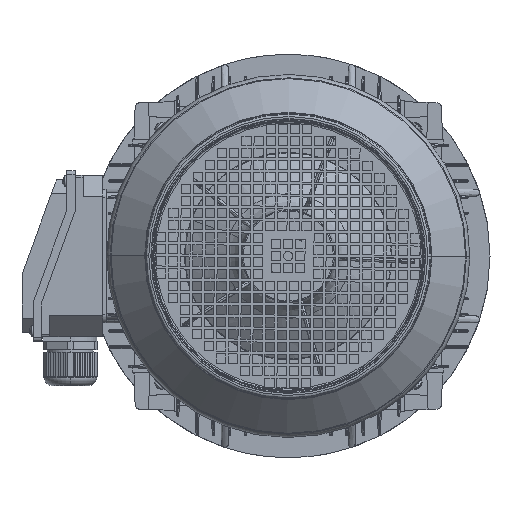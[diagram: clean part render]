
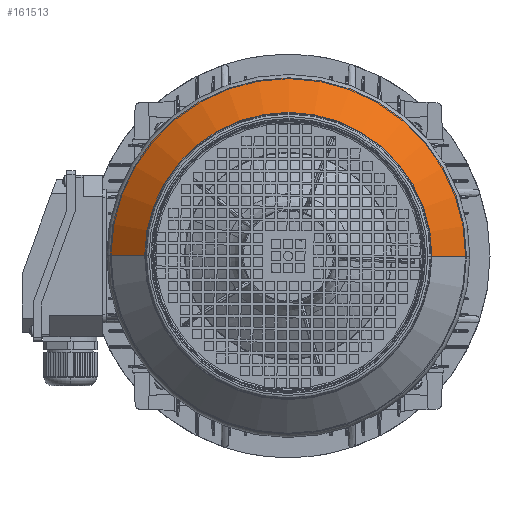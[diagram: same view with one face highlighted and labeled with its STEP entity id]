
A CAD part, left-side view. The second image highlights one B-rep face of the part: STEP entity #161513.
In plain terms, the highlighted conical face has half-angle 45 degrees and reference radius 124.586 mm.
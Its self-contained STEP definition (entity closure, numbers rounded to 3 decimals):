
#554 = CARTESIAN_POINT ( 'NONE',  ( -286.782, -126.084, -0.655 ) ) ;
#3514 = CONICAL_SURFACE ( 'NONE', #90563, 124.586, 0.785 ) ;
#4037 = EDGE_CURVE ( 'NONE', #64445, #101035, #183783, .T. ) ;
#23462 = VERTEX_POINT ( 'NONE', #222045 ) ;
#23749 = AXIS2_PLACEMENT_3D ( 'NONE', #119374, #203403, #28556 ) ;
#28556 = DIRECTION ( 'NONE',  ( 0., -1., -0.005 ) ) ;
#34620 = EDGE_CURVE ( 'NONE', #23462, #64445, #170728, .T. ) ;
#47709 = DIRECTION ( 'NONE',  ( 1., 0., 0. ) ) ;
#60843 = VECTOR ( 'NONE', #222898, 1000. ) ;
#61449 = CARTESIAN_POINT ( 'NONE',  ( -286.782, -1.5, 0. ) ) ;
#64445 = VERTEX_POINT ( 'NONE', #139462 ) ;
#65202 = CARTESIAN_POINT ( 'NONE',  ( -286.782, 123.084, 0.655 ) ) ;
#66968 = CARTESIAN_POINT ( 'NONE',  ( -256.797, -1.5, 0. ) ) ;
#69587 = ORIENTED_EDGE ( 'NONE', *, *, #187268, .T. ) ;
#88480 = VECTOR ( 'NONE', #154965, 1000. ) ;
#90563 = AXIS2_PLACEMENT_3D ( 'NONE', #61449, #203340, #113686 ) ;
#91393 = ORIENTED_EDGE ( 'NONE', *, *, #191481, .T. ) ;
#101035 = VERTEX_POINT ( 'NONE', #120974 ) ;
#113686 = DIRECTION ( 'NONE',  ( 0., -1., -0.005 ) ) ;
#114444 = CARTESIAN_POINT ( 'NONE',  ( -286.782, -126.084, -0.655 ) ) ;
#119374 = CARTESIAN_POINT ( 'NONE',  ( -286.782, -1.5, 0. ) ) ;
#120974 = CARTESIAN_POINT ( 'NONE',  ( -256.797, -156.069, -0.812 ) ) ;
#127013 = VERTEX_POINT ( 'NONE', #114444 ) ;
#139462 = CARTESIAN_POINT ( 'NONE',  ( -256.797, 153.069, 0.812 ) ) ;
#147710 = FACE_OUTER_BOUND ( 'NONE', #190974, .T. ) ;
#154965 = DIRECTION ( 'NONE',  ( 0.707, -0.707, -0.004 ) ) ;
#156073 = LINE ( 'NONE', #554, #88480 ) ;
#161513 = ADVANCED_FACE ( 'NONE', ( #147710 ), #3514, .T. ) ;
#170728 = LINE ( 'NONE', #65202, #60843 ) ;
#183783 = CIRCLE ( 'NONE', #201964, 154.571 ) ;
#187268 = EDGE_CURVE ( 'NONE', #127013, #101035, #156073, .T. ) ;
#190974 = EDGE_LOOP ( 'NONE', ( #193014, #91393, #69587, #202604 ) ) ;
#191481 = EDGE_CURVE ( 'NONE', #23462, #127013, #223266, .T. ) ;
#193014 = ORIENTED_EDGE ( 'NONE', *, *, #34620, .F. ) ;
#201964 = AXIS2_PLACEMENT_3D ( 'NONE', #66968, #47709, #223553 ) ;
#202604 = ORIENTED_EDGE ( 'NONE', *, *, #4037, .F. ) ;
#203340 = DIRECTION ( 'NONE',  ( 1., 0., 0. ) ) ;
#203403 = DIRECTION ( 'NONE',  ( 1., 0., 0. ) ) ;
#222045 = CARTESIAN_POINT ( 'NONE',  ( -286.782, 123.084, 0.655 ) ) ;
#222898 = DIRECTION ( 'NONE',  ( 0.707, 0.707, 0.004 ) ) ;
#223266 = CIRCLE ( 'NONE', #23749, 124.586 ) ;
#223553 = DIRECTION ( 'NONE',  ( 0., -1., -0.005 ) ) ;
